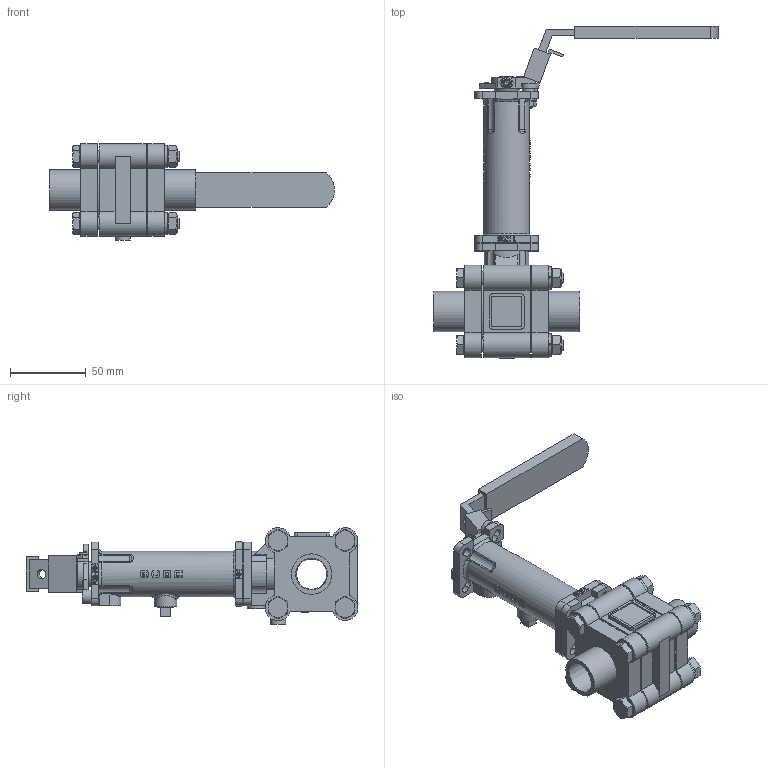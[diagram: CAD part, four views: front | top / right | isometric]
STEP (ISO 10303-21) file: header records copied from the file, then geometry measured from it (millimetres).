
FILE_DESCRIPTION(/* description */ ('Eriks item no: 14229942'),/* implementation_level */ '2;1');
FILE_NAME(/* name */ 'L:\DATA\ENG\Inventor\Econ 3D modellen\kogelkranen\7642 +7412\7642-DN20-FB + 7412-size1.stp',/* time_stamp */ '2024-01-22T16:04:39+01:00',/* author */ ('roger.thijssen'),/* organization */ (''),/* preprocessor_version */ 'ST-DEVELOPER v18',/* originating_system */ 'Autodesk Inventor 2020',/* authorisation */ '');
FILE_SCHEMA (('CONFIG_CONTROL_DESIGN'));
Length unit declared in the file: millimetre
Products named in the file (1): Ball valve + stem ext., 7642-DN20-FB + 7412-size1
Bounding box: 188.3 x 219.33 x 63.78 mm (x, y, z)
Volume: 288654.6 mm3; surface area: 84404.8 mm2
Topology: 3 solids, 3 shells, 1176 faces, 3160 edges, 2071 vertices
Faces by surface type: plane 697, cylinder 209, bspline 187, cone 72, torus 11
Full cylindrical faces by diameter (mm): 5 x3, 5.5 x5, 6 x1, 8 x8, 8.6 x1, 9 x13, 10 x1, 11.112 x1, 11.2 x2, 11.6 x4, 12 x2, 15 x1, 16 x1, 20 x1, 22.5 x2, 23 x1, 25 x1, 26.7 x2, 29 x1, 30 x1, 49.5 x2
Entity records: 42799 total; most frequent: CARTESIAN_POINT 13101, ORIENTED_EDGE 6318, DIRECTION 5309, EDGE_CURVE 3159, VERTEX_POINT 2071, LINE 1873, VECTOR 1873, AXIS2_PLACEMENT_3D 1718
